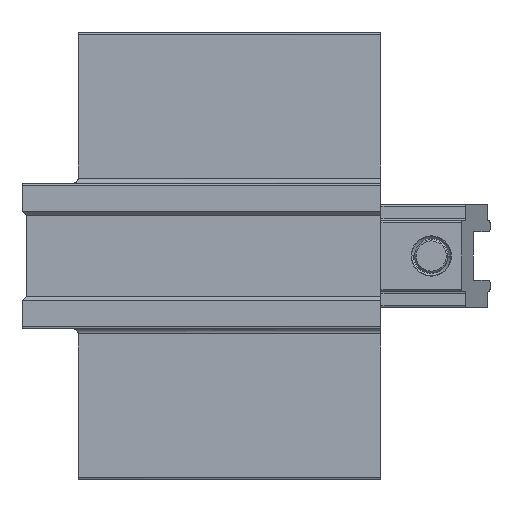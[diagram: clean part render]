
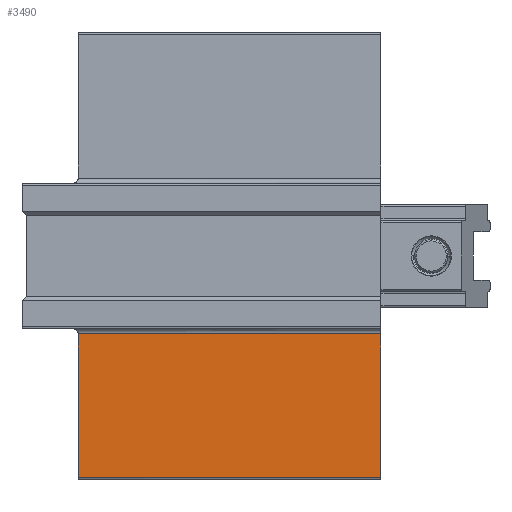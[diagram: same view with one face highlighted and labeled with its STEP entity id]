
A CAD part, left-side view. The second image highlights one B-rep face of the part: STEP entity #3490.
In plain terms, the highlighted planar face has unit normal (-1, 0, 0) as drawn and (0, 1, 0) by its records, which use the part's own axes.
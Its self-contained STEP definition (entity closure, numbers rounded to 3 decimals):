
#227=DIRECTION('',(0.,0.,1.));
#228=VECTOR('',#227,14.3);
#229=CARTESIAN_POINT('',(50.,15.1,7.75));
#230=LINE('',#229,#228);
#695=DIRECTION('',(-1.,0.,0.));
#696=VECTOR('',#695,30.1);
#697=CARTESIAN_POINT('',(50.,15.1,22.05));
#698=LINE('',#697,#696);
#699=DIRECTION('',(0.,0.,1.));
#700=VECTOR('',#699,14.3);
#701=CARTESIAN_POINT('',(19.9,15.1,7.75));
#702=LINE('',#701,#700);
#703=DIRECTION('',(-1.,0.,0.));
#704=VECTOR('',#703,30.1);
#705=CARTESIAN_POINT('',(50.,15.1,7.75));
#706=LINE('',#705,#704);
#2307=CARTESIAN_POINT('',(50.,15.1,22.05));
#2309=VERTEX_POINT('',#2307);
#2397=CARTESIAN_POINT('',(50.,15.1,7.75));
#2398=VERTEX_POINT('',#2397);
#2613=CARTESIAN_POINT('',(19.9,15.1,22.05));
#2614=VERTEX_POINT('',#2613);
#2705=CARTESIAN_POINT('',(19.9,15.1,7.75));
#2706=VERTEX_POINT('',#2705);
#3478=CARTESIAN_POINT('',(50.,15.1,7.25));
#3479=DIRECTION('',(0.,1.,0.));
#3480=DIRECTION('',(0.,0.,1.));
#3481=AXIS2_PLACEMENT_3D('',#3478,#3479,#3480);
#3482=PLANE('',#3481);
#3484=ORIENTED_EDGE('',*,*,#3483,.T.);
#3485=ORIENTED_EDGE('',*,*,#3165,.F.);
#3486=ORIENTED_EDGE('',*,*,#3472,.F.);
#3487=ORIENTED_EDGE('',*,*,#2828,.T.);
#3488=EDGE_LOOP('',(#3484,#3485,#3486,#3487));
#3489=FACE_OUTER_BOUND('',#3488,.F.);
#3490=ADVANCED_FACE('',(#3489),#3482,.T.);
#2828=EDGE_CURVE('',#2398,#2309,#230,.T.);
#3165=EDGE_CURVE('',#2706,#2614,#702,.T.);
#3472=EDGE_CURVE('',#2398,#2706,#706,.T.);
#3483=EDGE_CURVE('',#2309,#2614,#698,.T.);
